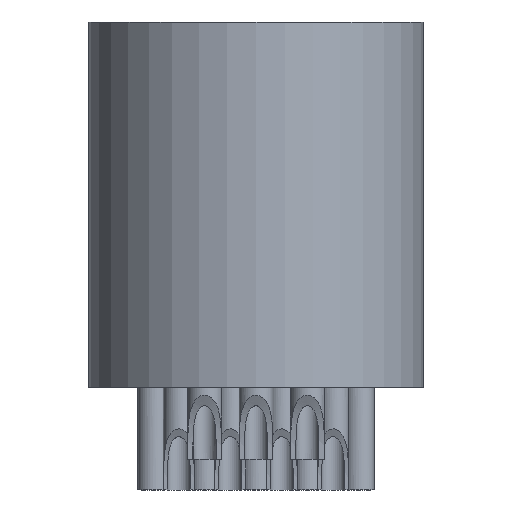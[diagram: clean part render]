
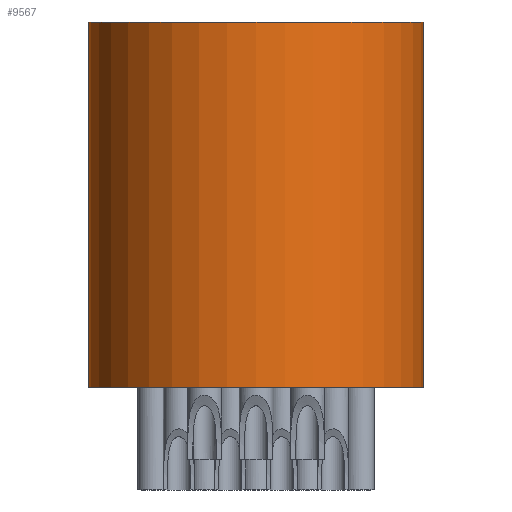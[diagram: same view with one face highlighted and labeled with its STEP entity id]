
A CAD part, front view. The second image highlights one B-rep face of the part: STEP entity #9567.
In plain terms, the highlighted cylindrical face has radius 4.128 mm (diameter 8.255 mm), a partial arc.
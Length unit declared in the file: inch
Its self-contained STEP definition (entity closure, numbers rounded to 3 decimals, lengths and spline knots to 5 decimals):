
#61 = ORIENTED_EDGE ( 'NONE', *, *, #9251, .T. ) ;
#101 = EDGE_LOOP ( 'NONE', ( #456, #438, #61, #412 ) ) ;
#412 = ORIENTED_EDGE ( 'NONE', *, *, #5540, .T. ) ;
#438 = ORIENTED_EDGE ( 'NONE', *, *, #4724, .F. ) ;
#456 = ORIENTED_EDGE ( 'NONE', *, *, #9191, .F. ) ;
#2112 = VERTEX_POINT ( 'NONE', #13618 ) ;
#2113 = VERTEX_POINT ( 'NONE', #13960 ) ;
#2122 = VERTEX_POINT ( 'NONE', #13778 ) ;
#2233 = VERTEX_POINT ( 'NONE', #13803 ) ;
#4724 = EDGE_CURVE ( 'NONE', #2112, #2233, #15751, .T. ) ;
#5540 = EDGE_CURVE ( 'NONE', #2113, #2122, #14952, .T. ) ;
#5992 = AXIS2_PLACEMENT_3D ( 'NONE', #10575, #10576, #10574 ) ;
#7034 = DIRECTION ( 'NONE',  ( 0., 0., 1. ) ) ;
#7035 = CARTESIAN_POINT ( 'NONE',  ( 0., 0., 0.355 ) ) ;
#7037 = DIRECTION ( 'NONE',  ( 1., 0., 0. ) ) ;
#7310 = CARTESIAN_POINT ( 'NONE',  ( 0.1625, 0., 0.355 ) ) ;
#7319 = DIRECTION ( 'NONE',  ( 0., 0., -1. ) ) ;
#7467 = CARTESIAN_POINT ( 'NONE',  ( -0.1625, 0., 0.355 ) ) ;
#7468 = DIRECTION ( 'NONE',  ( 0., 0., -1. ) ) ;
#9039 = AXIS2_PLACEMENT_3D ( 'NONE', #12708, #12709, #12710 ) ;
#9131 = AXIS2_PLACEMENT_3D ( 'NONE', #7035, #7034, #7037 ) ;
#9191 = EDGE_CURVE ( 'NONE', #2233, #2122, #15058, .T. ) ;
#9251 = EDGE_CURVE ( 'NONE', #2112, #2113, #12009, .T. ) ;
#9567 = ADVANCED_FACE ( 'NONE', ( #11778 ), #11869, .T. ) ;
#10574 = DIRECTION ( 'NONE',  ( -1., 0., 0. ) ) ;
#10575 = CARTESIAN_POINT ( 'NONE',  ( 0., 0., 0.355 ) ) ;
#10576 = DIRECTION ( 'NONE',  ( 0., 0., -1. ) ) ;
#11778 = FACE_OUTER_BOUND ( 'NONE', #101, .T. ) ;
#11869 = CYLINDRICAL_SURFACE ( 'NONE', #5992, 0.1625 ) ;
#12009 = LINE ( 'NONE', #7467, #12017 ) ;
#12017 = VECTOR ( 'NONE', #7468, 39.37008 ) ;
#12708 = CARTESIAN_POINT ( 'NONE',  ( 0., 0., 0. ) ) ;
#12709 = DIRECTION ( 'NONE',  ( 0., 0., 1. ) ) ;
#12710 = DIRECTION ( 'NONE',  ( 1., 0., 0. ) ) ;
#13618 = CARTESIAN_POINT ( 'NONE',  ( -0.1625, 0., 0.355 ) ) ;
#13778 = CARTESIAN_POINT ( 'NONE',  ( 0.1625, 0., 0. ) ) ;
#13803 = CARTESIAN_POINT ( 'NONE',  ( 0.1625, 0., 0.355 ) ) ;
#13960 = CARTESIAN_POINT ( 'NONE',  ( -0.1625, 0., 0. ) ) ;
#14952 = CIRCLE ( 'NONE', #9039, 0.1625 ) ;
#15058 = LINE ( 'NONE', #7310, #15097 ) ;
#15097 = VECTOR ( 'NONE', #7319, 39.37008 ) ;
#15751 = CIRCLE ( 'NONE', #9131, 0.1625 ) ;
